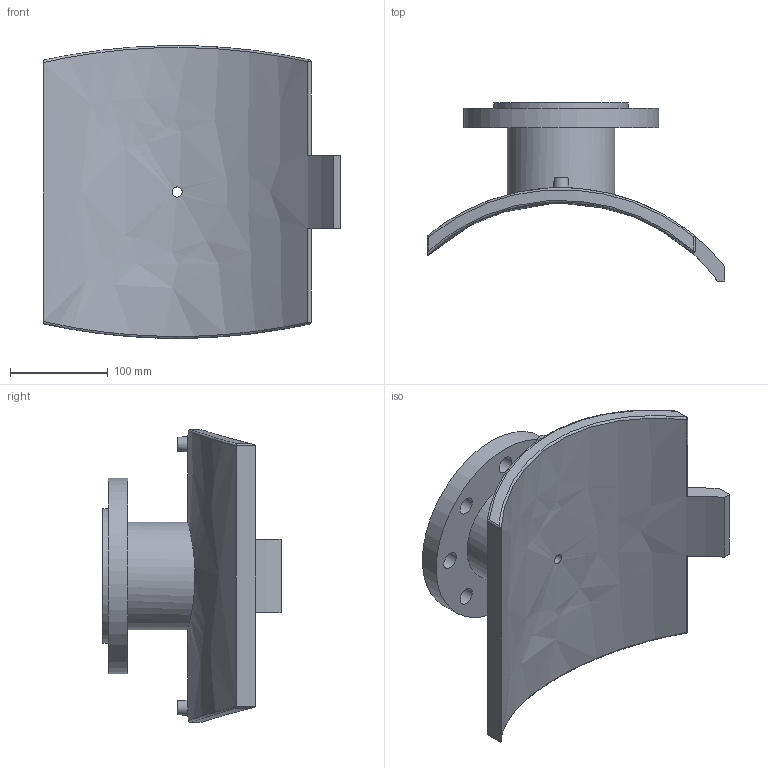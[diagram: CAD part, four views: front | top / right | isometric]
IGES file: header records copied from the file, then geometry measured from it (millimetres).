
Global section: file name: 495904400080T; native system: Autodesk Inventor 2019; preprocessor: unknown; author: KIM; date: 20240403.210011; units: millimetre
Bounding box: 305 x 182.52 x 299.7 mm (x, y, z)
Volume: 2190356.7 mm3; surface area: 315696.2 mm2
Topology: 1 solids, 1 shells, 58 faces, 151 edges, 118 vertices
Faces by surface type: bspline 58
